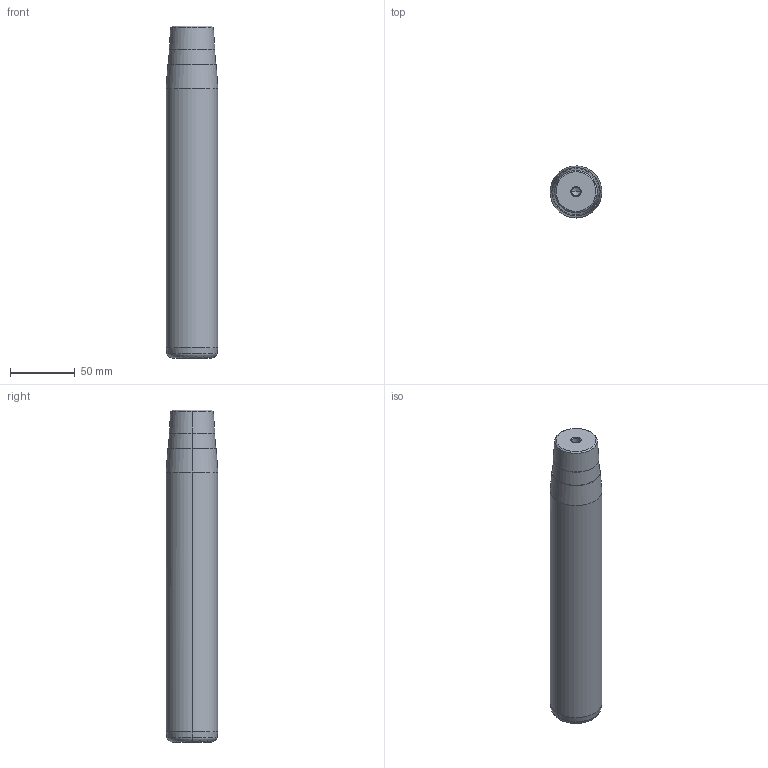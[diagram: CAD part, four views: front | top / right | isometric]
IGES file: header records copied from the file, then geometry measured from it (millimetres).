
Start section: START RECORD GO HERE.
Global section: file name: 722-40x224x257.igs; native system: DASSAULT SYSTEMES CATIA V5 R20 - www.3ds.com; preprocessor: CATIA Version 5 Release 20 ; author: Utente; organization: NB04-ASUS; date: 20210108.163413; units: millimetre
Bounding box: 40 x 40 x 257 mm (x, y, z)
Surface area: 34632.4 mm2 (no closed solid volume)
Topology: 0 solids, 0 shells, 32 faces, 128 edges, 124 vertices
Faces by surface type: revolution 30, plane 2
